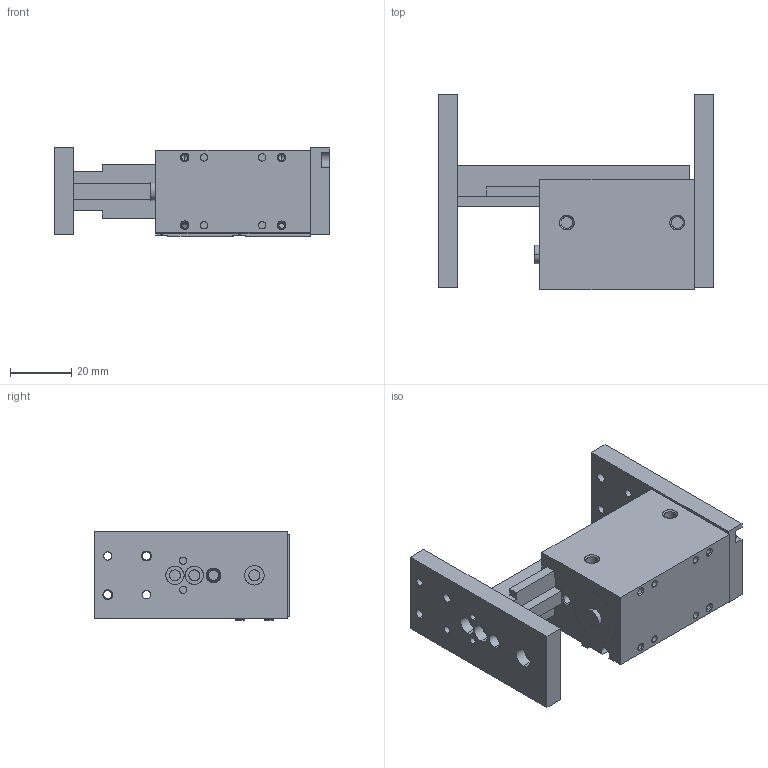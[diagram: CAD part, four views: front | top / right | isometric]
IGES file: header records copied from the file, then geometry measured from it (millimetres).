
Start section: SolidWorks IGES file using analytic representation for surfaces
Global section: file name: C:\Users\jmkuhnes\Pictures\My Transfers\AGPS\AGPS-2-2\AGPS-2-2 OPEN in IN.IGS; native system: SolidWorks 2013; preprocessor: SolidWorks 2013; author: jmkuhnes; date: 141121.112628; units: inch
Bounding box: 90.49 x 64.21 x 29 mm (x, y, z)
Surface area: 30703.5 mm2 (no closed solid volume)
Topology: 0 solids, 0 shells, 308 faces, 5158 edges, 5146 vertices
Faces by surface type: revolution 179, bspline 129
